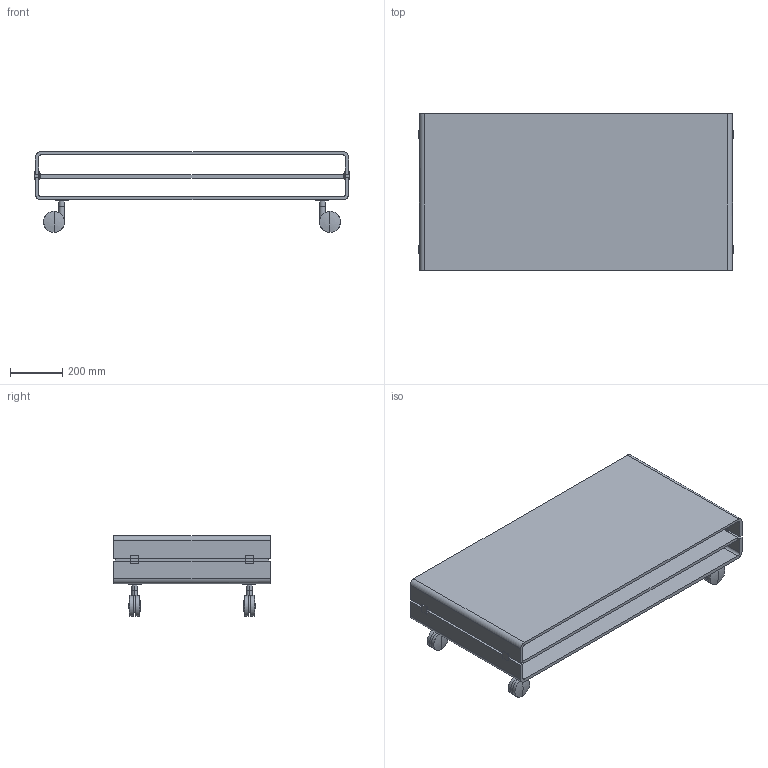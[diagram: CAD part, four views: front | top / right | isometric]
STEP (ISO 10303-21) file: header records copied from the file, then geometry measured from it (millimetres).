
FILE_DESCRIPTION(/* description */ (''),/* implementation_level */ '2;1');
FILE_NAME(/* name */ '203.324 - C&C 120x60 ruote+ripiano',/* time_stamp */ '2010-11-04T09:53:06+01:00',/* author */ (''),/* organization */ (''),/* preprocessor_version */ 'ST-DEVELOPER v10',/* originating_system */ '',/* authorisation */ '');
FILE_SCHEMA (('CONFIG_CONTROL_DESIGN'));
Length unit declared in the file: centimetre
Products named in the file (1): 1
Bounding box: 1208 x 600 x 309 mm (x, y, z)
Volume: 28494505.1 mm3; surface area: 5021387 mm2
Topology: 43 solids, 43 shells, 306 faces, 716 edges, 432 vertices
Faces by surface type: bspline 156, plane 150
Entity records: 8168 total; most frequent: CARTESIAN_POINT 3864, ORIENTED_EDGE 1304, EDGE_CURVE 652, VERTEX_POINT 432, B_SPLINE_CURVE_WITH_KNOTS 372, ADVANCED_FACE 306, FACE_OUTER_BOUND 306, EDGE_LOOP 306
